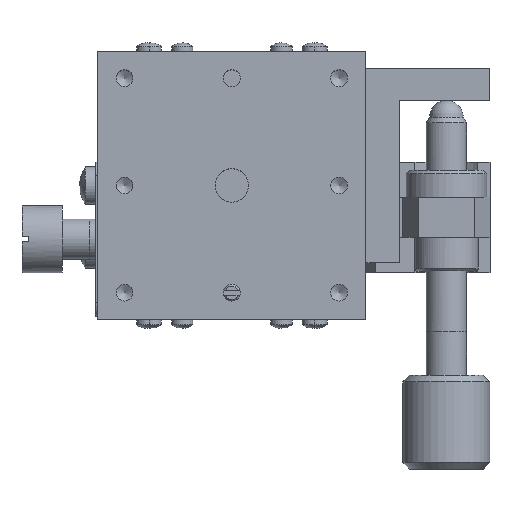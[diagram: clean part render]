
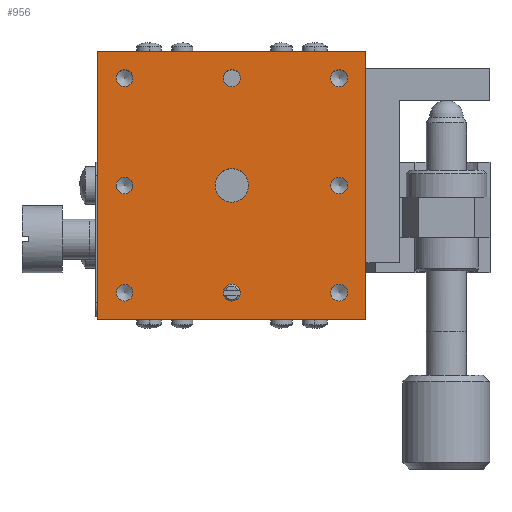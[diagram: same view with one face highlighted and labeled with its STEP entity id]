
A CAD part, top view. The second image highlights one B-rep face of the part: STEP entity #956.
In plain terms, the highlighted planar face has unit normal (0, 0, 1).
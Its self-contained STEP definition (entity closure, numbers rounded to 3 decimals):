
#956 = ADVANCED_FACE( '', ( #1473, #1474, #1475, #1476, #1477, #1478, #1479, #1480, #1481, #1482 ), #1483, .T. );
#1473 = FACE_BOUND( '', #2346, .T. );
#1474 = FACE_BOUND( '', #2347, .T. );
#1475 = FACE_BOUND( '', #2348, .T. );
#1476 = FACE_BOUND( '', #2349, .T. );
#1477 = FACE_BOUND( '', #2350, .T. );
#1478 = FACE_BOUND( '', #2351, .T. );
#1479 = FACE_BOUND( '', #2352, .T. );
#1480 = FACE_BOUND( '', #2353, .T. );
#1481 = FACE_BOUND( '', #2354, .T. );
#1482 = FACE_OUTER_BOUND( '', #2355, .T. );
#1483 = PLANE( '', #2356 );
#2346 = EDGE_LOOP( '', ( #3792 ) );
#2347 = EDGE_LOOP( '', ( #3793 ) );
#2348 = EDGE_LOOP( '', ( #3794 ) );
#2349 = EDGE_LOOP( '', ( #3795 ) );
#2350 = EDGE_LOOP( '', ( #3796 ) );
#2351 = EDGE_LOOP( '', ( #3797 ) );
#2352 = EDGE_LOOP( '', ( #3798 ) );
#2353 = EDGE_LOOP( '', ( #3799 ) );
#2354 = EDGE_LOOP( '', ( #3800 ) );
#2355 = EDGE_LOOP( '', ( #3801, #3802, #3803, #3804 ) );
#2356 = AXIS2_PLACEMENT_3D( '', #3805, #3806, #3807 );
#3792 = ORIENTED_EDGE( '', *, *, #5618, .T. );
#3793 = ORIENTED_EDGE( '', *, *, #5619, .T. );
#3794 = ORIENTED_EDGE( '', *, *, #5620, .T. );
#3795 = ORIENTED_EDGE( '', *, *, #5621, .T. );
#3796 = ORIENTED_EDGE( '', *, *, #5622, .T. );
#3797 = ORIENTED_EDGE( '', *, *, #5623, .T. );
#3798 = ORIENTED_EDGE( '', *, *, #5624, .T. );
#3799 = ORIENTED_EDGE( '', *, *, #5625, .T. );
#3800 = ORIENTED_EDGE( '', *, *, #5626, .T. );
#3801 = ORIENTED_EDGE( '', *, *, #5627, .F. );
#3802 = ORIENTED_EDGE( '', *, *, #5628, .F. );
#3803 = ORIENTED_EDGE( '', *, *, #5629, .F. );
#3804 = ORIENTED_EDGE( '', *, *, #5630, .F. );
#3805 = CARTESIAN_POINT( '', ( 0., 0., 15. ) );
#3806 = DIRECTION( '', ( 0., 0., 1. ) );
#3807 = DIRECTION( '', ( 1., 0., 0. ) );
#5618 = EDGE_CURVE( '', #6479, #6479, #6480, .T. );
#5619 = EDGE_CURVE( '', #6481, #6481, #6482, .T. );
#5620 = EDGE_CURVE( '', #6483, #6483, #6484, .T. );
#5621 = EDGE_CURVE( '', #6485, #6485, #6486, .T. );
#5622 = EDGE_CURVE( '', #6487, #6487, #6488, .T. );
#5623 = EDGE_CURVE( '', #6489, #6489, #6490, .T. );
#5624 = EDGE_CURVE( '', #6491, #6491, #6492, .T. );
#5625 = EDGE_CURVE( '', #6493, #6493, #6494, .T. );
#5626 = EDGE_CURVE( '', #6495, #6495, #6496, .T. );
#5627 = EDGE_CURVE( '', #6497, #6498, #6499, .T. );
#5628 = EDGE_CURVE( '', #6500, #6497, #6501, .T. );
#5629 = EDGE_CURVE( '', #6502, #6500, #6503, .T. );
#5630 = EDGE_CURVE( '', #6498, #6502, #6504, .T. );
#6479 = VERTEX_POINT( '', #7840 );
#6480 = CIRCLE( '', #7841, 2.5 );
#6481 = VERTEX_POINT( '', #7842 );
#6482 = CIRCLE( '', #7843, 1.25 );
#6483 = VERTEX_POINT( '', #7844 );
#6484 = CIRCLE( '', #7845, 1.25 );
#6485 = VERTEX_POINT( '', #7846 );
#6486 = CIRCLE( '', #7847, 1.25 );
#6487 = VERTEX_POINT( '', #7848 );
#6488 = CIRCLE( '', #7849, 1.25 );
#6489 = VERTEX_POINT( '', #7850 );
#6490 = CIRCLE( '', #7851, 1.25 );
#6491 = VERTEX_POINT( '', #7852 );
#6492 = CIRCLE( '', #7853, 1.25 );
#6493 = VERTEX_POINT( '', #7854 );
#6494 = CIRCLE( '', #7855, 1.25 );
#6495 = VERTEX_POINT( '', #7856 );
#6496 = CIRCLE( '', #7857, 1.25 );
#6497 = VERTEX_POINT( '', #7858 );
#6498 = VERTEX_POINT( '', #7859 );
#6499 = LINE( '', #7860, #7861 );
#6500 = VERTEX_POINT( '', #7862 );
#6501 = LINE( '', #7863, #7864 );
#6502 = VERTEX_POINT( '', #7865 );
#6503 = LINE( '', #7866, #7867 );
#6504 = LINE( '', #7868, #7869 );
#7840 = CARTESIAN_POINT( '', ( 2.5, 0., 15. ) );
#7841 = AXIS2_PLACEMENT_3D( '', #9254, #9255, #9256 );
#7842 = CARTESIAN_POINT( '', ( 1.25, 16., 15. ) );
#7843 = AXIS2_PLACEMENT_3D( '', #9257, #9258, #9259 );
#7844 = CARTESIAN_POINT( '', ( 1.25, -16., 15. ) );
#7845 = AXIS2_PLACEMENT_3D( '', #9260, #9261, #9262 );
#7846 = CARTESIAN_POINT( '', ( 17.25, 0., 15. ) );
#7847 = AXIS2_PLACEMENT_3D( '', #9263, #9264, #9265 );
#7848 = CARTESIAN_POINT( '', ( 17.25, 16., 15. ) );
#7849 = AXIS2_PLACEMENT_3D( '', #9266, #9267, #9268 );
#7850 = CARTESIAN_POINT( '', ( -14.75, 16., 15. ) );
#7851 = AXIS2_PLACEMENT_3D( '', #9269, #9270, #9271 );
#7852 = CARTESIAN_POINT( '', ( -14.75, 0., 15. ) );
#7853 = AXIS2_PLACEMENT_3D( '', #9272, #9273, #9274 );
#7854 = CARTESIAN_POINT( '', ( -14.75, -16., 15. ) );
#7855 = AXIS2_PLACEMENT_3D( '', #9275, #9276, #9277 );
#7856 = CARTESIAN_POINT( '', ( 17.25, -16., 15. ) );
#7857 = AXIS2_PLACEMENT_3D( '', #9278, #9279, #9280 );
#7858 = CARTESIAN_POINT( '', ( 20., -20., 15. ) );
#7859 = CARTESIAN_POINT( '', ( -20., -20., 15. ) );
#7860 = CARTESIAN_POINT( '', ( 0., -20., 15. ) );
#7861 = VECTOR( '', #9281, 1000. );
#7862 = CARTESIAN_POINT( '', ( 20., 20., 15. ) );
#7863 = CARTESIAN_POINT( '', ( 20., 0., 15. ) );
#7864 = VECTOR( '', #9282, 1000. );
#7865 = CARTESIAN_POINT( '', ( -20., 20., 15. ) );
#7866 = CARTESIAN_POINT( '', ( 0., 20., 15. ) );
#7867 = VECTOR( '', #9283, 1000. );
#7868 = CARTESIAN_POINT( '', ( -20., 0., 15. ) );
#7869 = VECTOR( '', #9284, 1000. );
#9254 = CARTESIAN_POINT( '', ( 0., 0., 15. ) );
#9255 = DIRECTION( '', ( 0., 0., -1. ) );
#9256 = DIRECTION( '', ( 1., 0., 0. ) );
#9257 = CARTESIAN_POINT( '', ( 0., 16., 15. ) );
#9258 = DIRECTION( '', ( 0., 0., -1. ) );
#9259 = DIRECTION( '', ( 1., 0., 0. ) );
#9260 = CARTESIAN_POINT( '', ( 0., -16., 15. ) );
#9261 = DIRECTION( '', ( 0., 0., -1. ) );
#9262 = DIRECTION( '', ( 1., 0., 0. ) );
#9263 = CARTESIAN_POINT( '', ( 16., 0., 15. ) );
#9264 = DIRECTION( '', ( 0., 0., -1. ) );
#9265 = DIRECTION( '', ( 1., 0., 0. ) );
#9266 = CARTESIAN_POINT( '', ( 16., 16., 15. ) );
#9267 = DIRECTION( '', ( 0., 0., -1. ) );
#9268 = DIRECTION( '', ( 1., 0., 0. ) );
#9269 = CARTESIAN_POINT( '', ( -16., 16., 15. ) );
#9270 = DIRECTION( '', ( 0., 0., -1. ) );
#9271 = DIRECTION( '', ( 1., 0., 0. ) );
#9272 = CARTESIAN_POINT( '', ( -16., 0., 15. ) );
#9273 = DIRECTION( '', ( 0., 0., -1. ) );
#9274 = DIRECTION( '', ( 1., 0., 0. ) );
#9275 = CARTESIAN_POINT( '', ( -16., -16., 15. ) );
#9276 = DIRECTION( '', ( 0., 0., -1. ) );
#9277 = DIRECTION( '', ( 1., 0., 0. ) );
#9278 = CARTESIAN_POINT( '', ( 16., -16., 15. ) );
#9279 = DIRECTION( '', ( 0., 0., -1. ) );
#9280 = DIRECTION( '', ( 1., 0., 0. ) );
#9281 = DIRECTION( '', ( -1., 0., 0. ) );
#9282 = DIRECTION( '', ( 0., -1., 0. ) );
#9283 = DIRECTION( '', ( 1., 0., 0. ) );
#9284 = DIRECTION( '', ( 0., 1., 0. ) );
